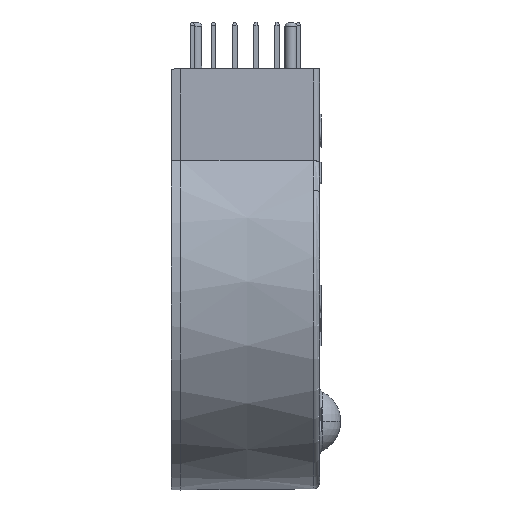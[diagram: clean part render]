
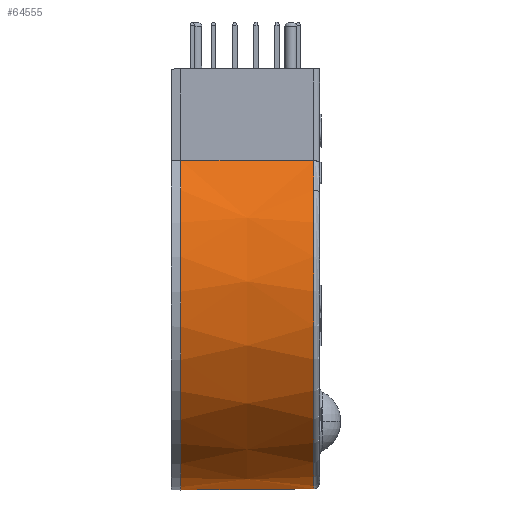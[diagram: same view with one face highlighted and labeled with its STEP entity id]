
A CAD part, left-side view. The second image highlights one B-rep face of the part: STEP entity #64555.
In plain terms, the highlighted conical face has half-angle 0.5 degrees and reference radius 17.52 mm.
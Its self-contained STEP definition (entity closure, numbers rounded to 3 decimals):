
#31309 = PLANE('',#31310);
#31310 = AXIS2_PLACEMENT_3D('',#31311,#31312,#31313);
#31311 = CARTESIAN_POINT('',(34.225,10.931,
    44.798));
#31312 = DIRECTION('',(0.,1.,0.));
#31313 = DIRECTION('',(0.,0.,1.));
#31556 = PLANE('',#31557);
#31557 = AXIS2_PLACEMENT_3D('',#31558,#31559,#31560);
#31558 = CARTESIAN_POINT('',(7.765,10.931,
    65.298));
#31559 = DIRECTION('',(-1.,-0.009,0.));
#31560 = DIRECTION('',(0.009,-1.,
    0.));
#41974 = TOROIDAL_SURFACE('',#41975,16.921,0.5);
#41975 = AXIS2_PLACEMENT_3D('',#41976,#41977,#41978);
#41976 = CARTESIAN_POINT('',(21.785,-0.369,
    47.018));
#41977 = DIRECTION('',(0.,1.,0.));
#41978 = DIRECTION('',(0.,0.,1.));
#43767 = VERTEX_POINT('',#43768);
#43768 = CARTESIAN_POINT('',(21.785,10.931,
    29.498));
#43782 = PLANE('',#43783);
#43783 = AXIS2_PLACEMENT_3D('',#43784,#43785,#43786);
#43784 = CARTESIAN_POINT('',(21.785,10.931,
    29.498));
#43785 = DIRECTION('',(0.,-0.009,-1.));
#43786 = DIRECTION('',(0.,1.,-0.009));
#43794 = EDGE_CURVE('',#43767,#43795,#43797,.T.);
#43795 = VERTEX_POINT('',#43796);
#43796 = CARTESIAN_POINT('',(7.765,10.931,
    57.525));
#43797 = SURFACE_CURVE('',#43798,(#43803,#43810),.PCURVE_S1.);
#43798 = CIRCLE('',#43799,17.52);
#43799 = AXIS2_PLACEMENT_3D('',#43800,#43801,#43802);
#43800 = CARTESIAN_POINT('',(21.785,10.931,
    47.018));
#43801 = DIRECTION('',(0.,1.,0.));
#43802 = DIRECTION('',(0.,0.,1.));
#43803 = PCURVE('',#31309,#43804);
#43804 = DEFINITIONAL_REPRESENTATION('',(#43805),#43809);
#43805 = CIRCLE('',#43806,17.52);
#43806 = AXIS2_PLACEMENT_2D('',#43807,#43808);
#43807 = CARTESIAN_POINT('',(2.221,-12.44));
#43808 = DIRECTION('',(1.,0.));
#43809 = ( GEOMETRIC_REPRESENTATION_CONTEXT(2) 
PARAMETRIC_REPRESENTATION_CONTEXT() REPRESENTATION_CONTEXT('2D SPACE',''
  ) );
#43810 = PCURVE('',#43811,#43816);
#43811 = CONICAL_SURFACE('',#43812,17.52,0.009);
#43812 = AXIS2_PLACEMENT_3D('',#43813,#43814,#43815);
#43813 = CARTESIAN_POINT('',(21.785,10.931,
    47.018));
#43814 = DIRECTION('',(0.,1.,0.));
#43815 = DIRECTION('',(0.,0.,1.));
#43816 = DEFINITIONAL_REPRESENTATION('',(#43817),#43821);
#43817 = LINE('',#43818,#43819);
#43818 = CARTESIAN_POINT('',(0.,0.));
#43819 = VECTOR('',#43820,1.);
#43820 = DIRECTION('',(1.,0.));
#43821 = ( GEOMETRIC_REPRESENTATION_CONTEXT(2) 
PARAMETRIC_REPRESENTATION_CONTEXT() REPRESENTATION_CONTEXT('2D SPACE',''
  ) );
#46421 = EDGE_CURVE('',#46422,#43795,#46424,.T.);
#46422 = VERTEX_POINT('',#46423);
#46423 = CARTESIAN_POINT('',(7.864,-0.374,
    57.492));
#46424 = SURFACE_CURVE('',#46425,(#46430,#46438),.PCURVE_S1.);
#46425 = B_SPLINE_CURVE_WITH_KNOTS('',3,(#46426,#46427,#46428,#46429),
  .UNSPECIFIED.,.F.,.F.,(4,4),(0.,0.012),
  .PIECEWISE_BEZIER_KNOTS.);
#46426 = CARTESIAN_POINT('',(7.864,-0.374,
    57.492));
#46427 = CARTESIAN_POINT('',(7.831,3.395,
    57.503));
#46428 = CARTESIAN_POINT('',(7.798,7.163,
    57.514));
#46429 = CARTESIAN_POINT('',(7.765,10.931,
    57.525));
#46430 = PCURVE('',#31556,#46431);
#46431 = DEFINITIONAL_REPRESENTATION('',(#46432),#46437);
#46432 = B_SPLINE_CURVE_WITH_KNOTS('',3,(#46433,#46434,#46435,#46436),
  .UNSPECIFIED.,.F.,.F.,(4,4),(0.,0.012),
  .PIECEWISE_BEZIER_KNOTS.);
#46433 = CARTESIAN_POINT('',(11.305,-7.806));
#46434 = CARTESIAN_POINT('',(7.537,-7.795));
#46435 = CARTESIAN_POINT('',(3.768,-7.784));
#46436 = CARTESIAN_POINT('',(0.,-7.773));
#46437 = ( GEOMETRIC_REPRESENTATION_CONTEXT(2) 
PARAMETRIC_REPRESENTATION_CONTEXT() REPRESENTATION_CONTEXT('2D SPACE',''
  ) );
#46438 = PCURVE('',#43811,#46439);
#46439 = DEFINITIONAL_REPRESENTATION('',(#46440),#46466);
#46440 = B_SPLINE_CURVE_WITH_KNOTS('',3,(#46441,#46442,#46443,#46444,
    #46445,#46446,#46447,#46448,#46449,#46450,#46451,#46452,#46453,
    #46454,#46455,#46456,#46457,#46458,#46459,#46460,#46461,#46462,
    #46463,#46464,#46465),.UNSPECIFIED.,.F.,.F.,(4,1,1,1,1,1,1,1,1,1,1,1
    ,1,1,1,1,1,1,1,1,1,1,4),(0.,0.001,
    0.002,0.002,0.003,
    0.003,0.004,0.004,
    0.005,0.005,0.006,
    0.006,0.007,0.007,
    0.008,0.008,0.009,
    0.009,0.01,0.01,
    0.011,0.011,0.012),
  .UNSPECIFIED.);
#46441 = CARTESIAN_POINT('',(5.357,-11.304));
#46442 = CARTESIAN_POINT('',(5.357,-11.133));
#46443 = CARTESIAN_POINT('',(5.357,-10.791));
#46444 = CARTESIAN_POINT('',(5.357,-10.277));
#46445 = CARTESIAN_POINT('',(5.357,-9.763));
#46446 = CARTESIAN_POINT('',(5.357,-9.249));
#46447 = CARTESIAN_POINT('',(5.357,-8.735));
#46448 = CARTESIAN_POINT('',(5.357,-8.221));
#46449 = CARTESIAN_POINT('',(5.357,-7.708));
#46450 = CARTESIAN_POINT('',(5.357,-7.194));
#46451 = CARTESIAN_POINT('',(5.357,-6.68));
#46452 = CARTESIAN_POINT('',(5.357,-6.166));
#46453 = CARTESIAN_POINT('',(5.356,-5.652));
#46454 = CARTESIAN_POINT('',(5.356,-5.138));
#46455 = CARTESIAN_POINT('',(5.356,-4.625));
#46456 = CARTESIAN_POINT('',(5.356,-4.111));
#46457 = CARTESIAN_POINT('',(5.356,-3.597));
#46458 = CARTESIAN_POINT('',(5.356,-3.083));
#46459 = CARTESIAN_POINT('',(5.356,-2.569));
#46460 = CARTESIAN_POINT('',(5.356,-2.055));
#46461 = CARTESIAN_POINT('',(5.356,-1.542));
#46462 = CARTESIAN_POINT('',(5.356,-1.028));
#46463 = CARTESIAN_POINT('',(5.356,-0.514));
#46464 = CARTESIAN_POINT('',(5.356,-0.171));
#46465 = CARTESIAN_POINT('',(5.356,0.));
#46466 = ( GEOMETRIC_REPRESENTATION_CONTEXT(2) 
PARAMETRIC_REPRESENTATION_CONTEXT() REPRESENTATION_CONTEXT('2D SPACE',''
  ) );
#61746 = VERTEX_POINT('',#61747);
#61747 = CARTESIAN_POINT('',(21.785,-0.374,
    29.597));
#61771 = EDGE_CURVE('',#61746,#46422,#61772,.T.);
#61772 = SURFACE_CURVE('',#61773,(#61778,#61785),.PCURVE_S1.);
#61773 = CIRCLE('',#61774,17.421);
#61774 = AXIS2_PLACEMENT_3D('',#61775,#61776,#61777);
#61775 = CARTESIAN_POINT('',(21.785,-0.374,
    47.018));
#61776 = DIRECTION('',(0.,1.,0.));
#61777 = DIRECTION('',(0.,0.,1.));
#61778 = PCURVE('',#41974,#61779);
#61779 = DEFINITIONAL_REPRESENTATION('',(#61780),#61784);
#61780 = LINE('',#61781,#61782);
#61781 = CARTESIAN_POINT('',(0.,6.274));
#61782 = VECTOR('',#61783,1.);
#61783 = DIRECTION('',(1.,0.));
#61784 = ( GEOMETRIC_REPRESENTATION_CONTEXT(2) 
PARAMETRIC_REPRESENTATION_CONTEXT() REPRESENTATION_CONTEXT('2D SPACE',''
  ) );
#61785 = PCURVE('',#43811,#61786);
#61786 = DEFINITIONAL_REPRESENTATION('',(#61787),#61791);
#61787 = LINE('',#61788,#61789);
#61788 = CARTESIAN_POINT('',(0.,-11.304));
#61789 = VECTOR('',#61790,1.);
#61790 = DIRECTION('',(1.,0.));
#61791 = ( GEOMETRIC_REPRESENTATION_CONTEXT(2) 
PARAMETRIC_REPRESENTATION_CONTEXT() REPRESENTATION_CONTEXT('2D SPACE',''
  ) );
#64510 = EDGE_CURVE('',#61746,#43767,#64511,.T.);
#64511 = SURFACE_CURVE('',#64512,(#64516,#64523),.PCURVE_S1.);
#64512 = LINE('',#64513,#64514);
#64513 = CARTESIAN_POINT('',(21.785,10.931,
    29.498));
#64514 = VECTOR('',#64515,1.);
#64515 = DIRECTION('',(0.,1.,-0.009));
#64516 = PCURVE('',#43782,#64517);
#64517 = DEFINITIONAL_REPRESENTATION('',(#64518),#64522);
#64518 = LINE('',#64519,#64520);
#64519 = CARTESIAN_POINT('',(0.,0.));
#64520 = VECTOR('',#64521,1.);
#64521 = DIRECTION('',(1.,0.));
#64522 = ( GEOMETRIC_REPRESENTATION_CONTEXT(2) 
PARAMETRIC_REPRESENTATION_CONTEXT() REPRESENTATION_CONTEXT('2D SPACE',''
  ) );
#64523 = PCURVE('',#43811,#64524);
#64524 = DEFINITIONAL_REPRESENTATION('',(#64525),#64529);
#64525 = LINE('',#64526,#64527);
#64526 = CARTESIAN_POINT('',(3.142,0.));
#64527 = VECTOR('',#64528,1.);
#64528 = DIRECTION('',(0.,1.));
#64529 = ( GEOMETRIC_REPRESENTATION_CONTEXT(2) 
PARAMETRIC_REPRESENTATION_CONTEXT() REPRESENTATION_CONTEXT('2D SPACE',''
  ) );
#64555 = ADVANCED_FACE('',(#64556),#43811,.T.);
#64556 = FACE_BOUND('',#64557,.T.);
#64557 = EDGE_LOOP('',(#64558,#64559,#64560,#64561));
#64558 = ORIENTED_EDGE('',*,*,#64510,.F.);
#64559 = ORIENTED_EDGE('',*,*,#61771,.T.);
#64560 = ORIENTED_EDGE('',*,*,#46421,.T.);
#64561 = ORIENTED_EDGE('',*,*,#43794,.F.);
